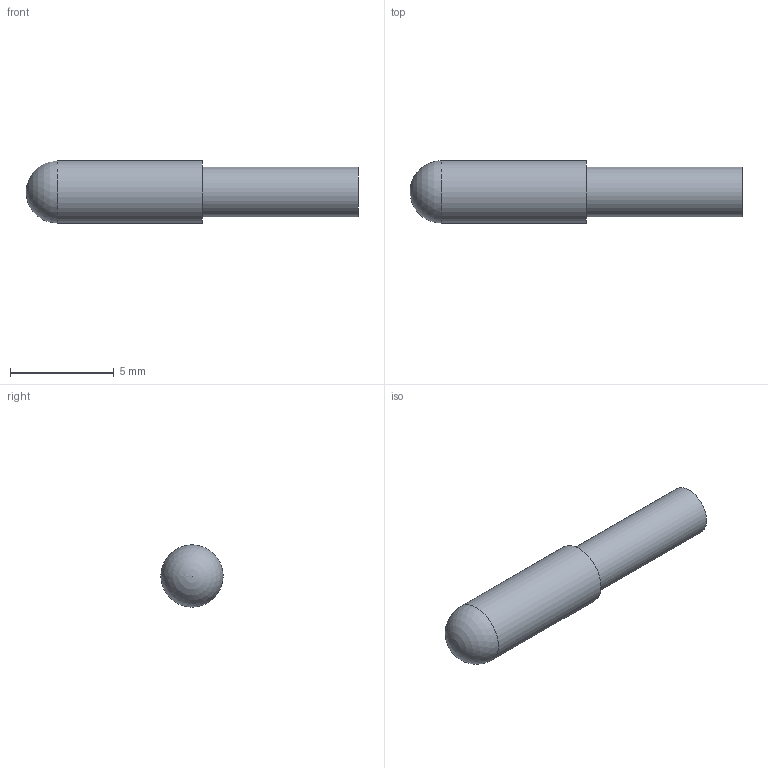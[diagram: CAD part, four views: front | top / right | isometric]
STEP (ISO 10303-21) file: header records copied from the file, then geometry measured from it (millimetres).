
FILE_DESCRIPTION( ( 'STEP AP203' ), '1' );
FILE_NAME( 'C:/Temp/Ganter_Step_05_03_2020/data/3_1/gn610/Spring loaded shell GN 610-3-16-H.stp', '2020-03-12T08:33:17', ( 'License CC BY-ND 4.0' ), ( 'CADENAS' ), ' ', 'PARTsolutions', ' ' );
FILE_SCHEMA( ( 'CONFIG_CONTROL_DESIGN' ) );
Length unit declared in the file: millimetre
Products named in the file (1): _Spring loaded shell GN 610-3-16-H
Bounding box: 16 x 3 x 3 mm (x, y, z)
Volume: 62 mm3; surface area: 195.6 mm2
Topology: 1 solids, 1 shells, 7 faces, 12 edges, 8 vertices
Faces by surface type: cylinder 3, plane 3, sphere 1
Full cylindrical faces by diameter (mm): 2.2 x1, 2.4 x1, 3 x1
Entity records: 182 total; most frequent: DIRECTION 28, CARTESIAN_POINT 21, AXIS2_PLACEMENT_3D 14, EDGE_LOOP 12, ORIENTED_EDGE 12, FACE_OUTER_BOUND 10, ADVANCED_FACE 7, VERTEX_POINT 7
